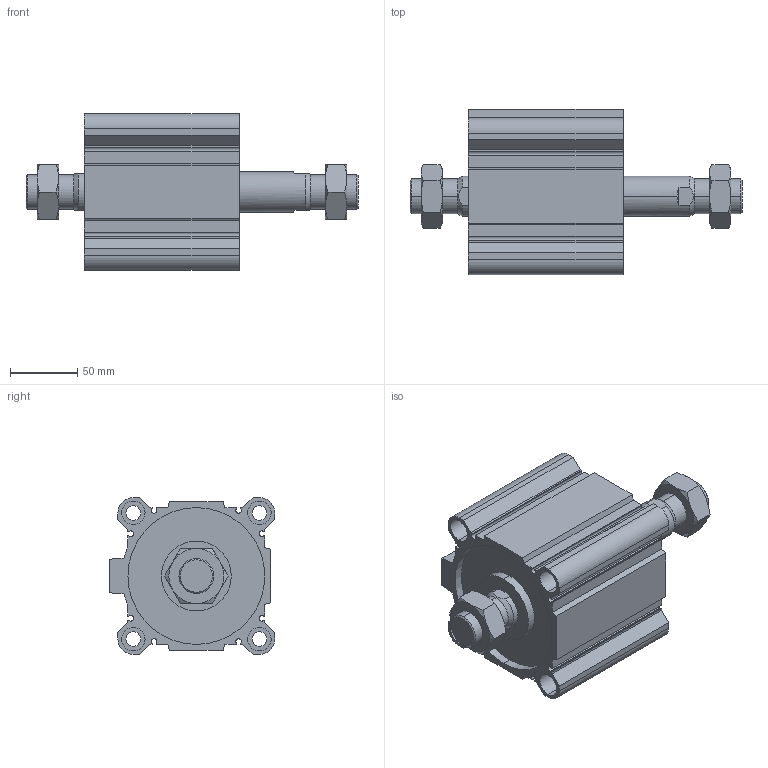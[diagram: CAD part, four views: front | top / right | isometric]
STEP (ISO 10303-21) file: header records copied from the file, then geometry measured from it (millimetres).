
FILE_DESCRIPTION (( 'STEP AP203' ), '1' );
FILE_NAME ('CCMB100-45M-P.STEP', '2020-08-10T12:00:06', ( '' ), ( '' ), 'SwSTEP 2.0', 'SolidWorks 2019', '' );
FILE_SCHEMA (( 'CONFIG_CONTROL_DESIGN' ));
Length unit declared in the file: millimetre
Products named in the file (1): CCMB100-45M-P
Bounding box: 247.5 x 123.5 x 117 mm (x, y, z)
Volume: 1044657.3 mm3; surface area: 220058.6 mm2
Topology: 4 solids, 4 shells, 230 faces, 568 edges, 364 vertices
Faces by surface type: plane 106, cylinder 80, cone 44
Entity records: 7879 total; most frequent: CARTESIAN_POINT 2279, DIRECTION 1166, ORIENTED_EDGE 1136, EDGE_CURVE 568, AXIS2_PLACEMENT_3D 431, VERTEX_POINT 364, VECTOR 304, LINE 304
